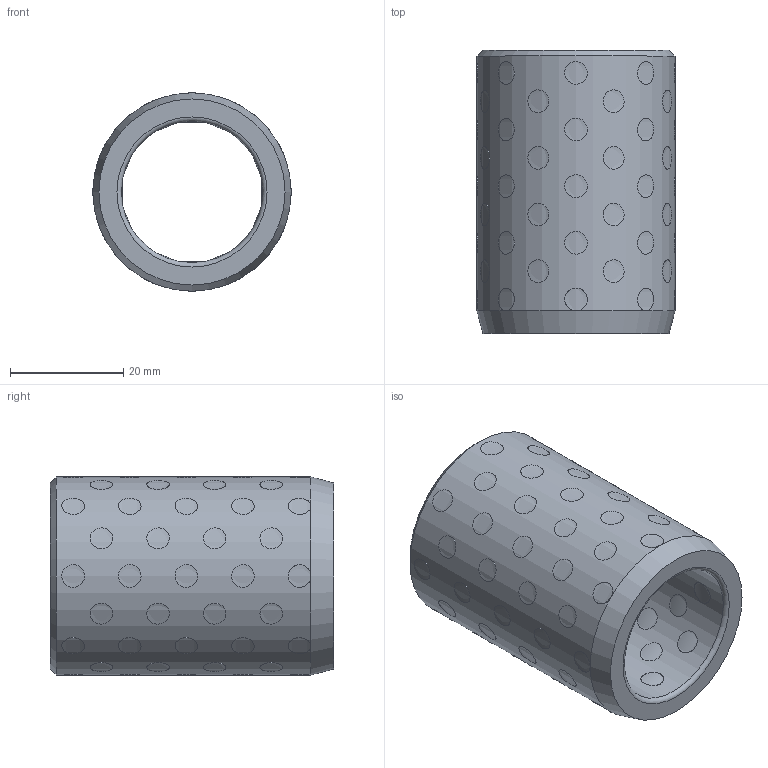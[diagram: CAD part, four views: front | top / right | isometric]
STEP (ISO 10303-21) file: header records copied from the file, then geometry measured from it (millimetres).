
FILE_DESCRIPTION( ( 'STEP AP203' ), '1' );
FILE_NAME( 'D:/Cuma/18 03 2010/D30.04/D30.04_255035.step', '2003-01-24T23:17:34', ( ' ' ), ( ' ' ), 'XStep 1.0', ' ', ' ' );
FILE_SCHEMA( ( 'CONFIG_CONTROL_DESIGN' ) );
Length unit declared in the file: metre
Products named in the file (81): 1; 2; 3; 4; 5; 6; 7; 8; 9; 10; 11; 12; 13; 14; 15; 16; 17; 18; 19; 20; 21; 22; 23; 24; 25; 26; 27; 28; 29; 30; 31; 32; 33; 34; 35; 36; 37; 38; 39; 40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
Bounding box: 35 x 50 x 35 mm (x, y, z)
Volume: 28296 mm3; surface area: 17204 mm2
Topology: 81 solids, 81 shells, 248 faces, 254 edges, 168 vertices
Faces by surface type: cylinder 242, torus 2, plane 2, cone 2
Full cylindrical faces by diameter (mm): 4 x80, 25 x1, 35 x1
Entity records: 15893 total; most frequent: CARTESIAN_POINT 9305, DIRECTION 674, CC_DESIGN_PERSON_AND_ORGANIZATION_ASSIGNMENT 405, AXIS2_PLACEMENT_3D 337, EDGE_LOOP 336, ORIENTED_EDGE 336, FACE_OUTER_BOUND 332, PERSON_AND_ORGANIZATION_ROLE 324
